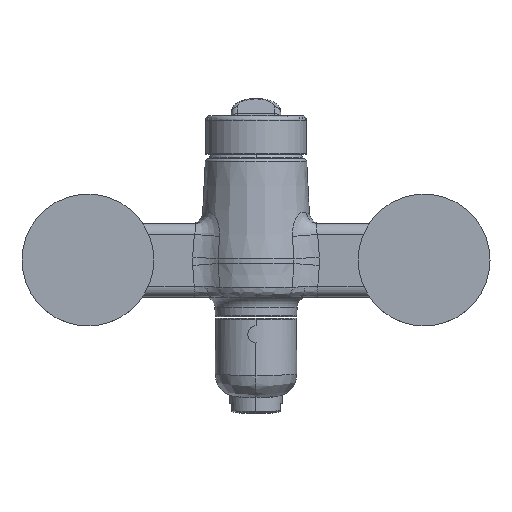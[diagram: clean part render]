
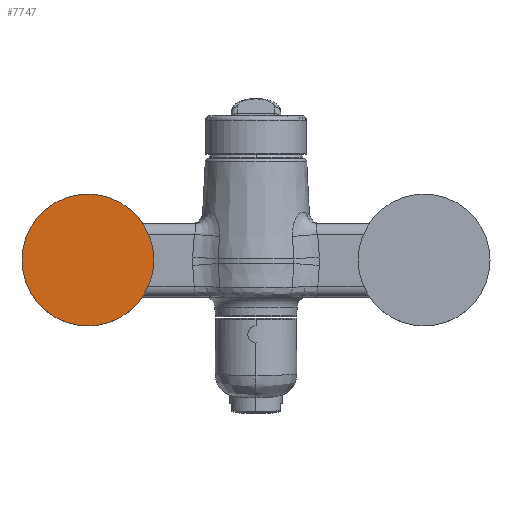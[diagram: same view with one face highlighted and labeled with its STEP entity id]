
A CAD part, top view. The second image highlights one B-rep face of the part: STEP entity #7747.
In plain terms, the highlighted planar face has unit normal (0, 0, 1).
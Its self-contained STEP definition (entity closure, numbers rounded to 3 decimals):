
#7572=CARTESIAN_POINT('',(-76.5,0.45,75.3));
#7573=DIRECTION('',(0.,0.,-1.));
#7574=DIRECTION('',(1.,0.,0.));
#7575=AXIS2_PLACEMENT_3D('',#7572,#7573,#7574);
#7581=CARTESIAN_POINT('',(-76.5,0.45,75.3));
#7582=DIRECTION('',(0.,0.,1.));
#7583=DIRECTION('',(1.,0.,0.));
#7584=AXIS2_PLACEMENT_3D('',#7581,#7582,#7583);
#7635=CARTESIAN_POINT('',(-46.5,0.45,75.3));
#7636=VERTEX_POINT('',#7635);
#7637=CARTESIAN_POINT('',(-106.5,0.45,75.3));
#7638=VERTEX_POINT('',#7637);
#7738=CARTESIAN_POINT('',(125.,-38.52,75.3));
#7739=DIRECTION('',(0.,0.,-1.));
#7740=DIRECTION('',(0.,1.,0.));
#7741=AXIS2_PLACEMENT_3D('',#7738,#7739,#7740);
#7742=PLANE('',#7741);
#7743=ORIENTED_EDGE('',*,*,#7732,.F.);
#7744=ORIENTED_EDGE('',*,*,#7718,.T.);
#7745=EDGE_LOOP('',(#7743,#7744));
#7746=FACE_OUTER_BOUND('',#7745,.F.);
#7747=ADVANCED_FACE('',(#7746),#7742,.F.);
#7576=CIRCLE('',#7575,30.);
#7585=CIRCLE('',#7584,30.);
#7718=EDGE_CURVE('',#7636,#7638,#7576,.T.);
#7732=EDGE_CURVE('',#7636,#7638,#7585,.T.);
